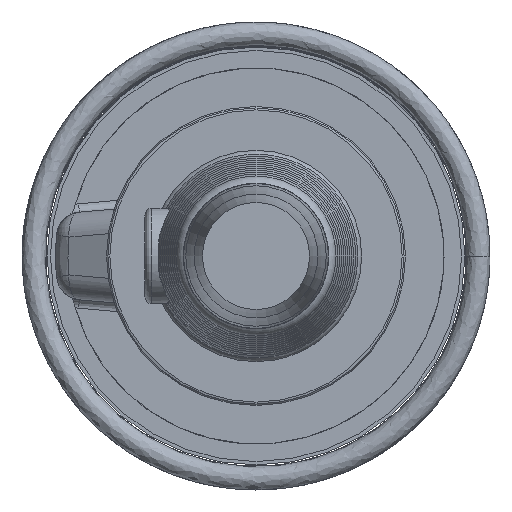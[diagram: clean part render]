
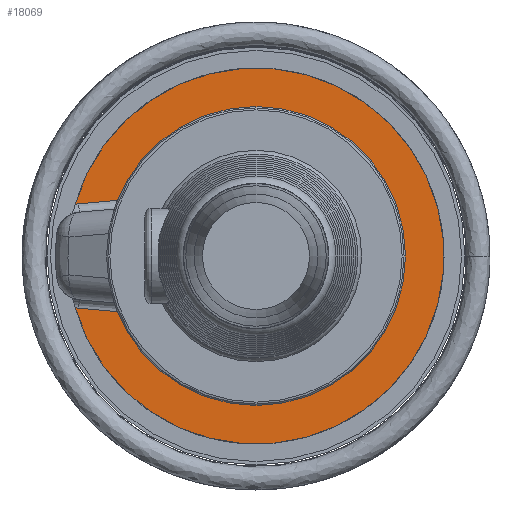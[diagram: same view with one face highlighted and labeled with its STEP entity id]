
A CAD part, left-side view. The second image highlights one B-rep face of the part: STEP entity #18069.
In plain terms, the highlighted planar face has unit normal (-1, 0, 0).
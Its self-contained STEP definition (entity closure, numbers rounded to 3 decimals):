
#2377=LINE('',#39893,#3386);
#2378=LINE('',#39901,#3387);
#3386=VECTOR('',#22701,10.);
#3387=VECTOR('',#22708,10.);
#3767=PLANE('',#19279);
#4619=FACE_OUTER_BOUND('',#5680,.T.);
#5680=EDGE_LOOP('',(#15427,#15428,#15429,#15430,#15431,#15432));
#6298=CIRCLE('',#19280,20.);
#6299=CIRCLE('',#19281,112.5);
#6300=CIRCLE('',#19282,20.);
#6301=CIRCLE('',#19283,74.);
#8136=VERTEX_POINT('',#39891);
#8137=VERTEX_POINT('',#39892);
#8138=VERTEX_POINT('',#39894);
#8139=VERTEX_POINT('',#39896);
#8140=VERTEX_POINT('',#39898);
#8141=VERTEX_POINT('',#39900);
#10592=EDGE_CURVE('',#8136,#8137,#2377,.T.);
#10593=EDGE_CURVE('',#8138,#8136,#6298,.T.);
#10594=EDGE_CURVE('',#8139,#8138,#6299,.F.);
#10595=EDGE_CURVE('',#8140,#8139,#6300,.T.);
#10596=EDGE_CURVE('',#8141,#8140,#2378,.T.);
#10597=EDGE_CURVE('',#8141,#8137,#6301,.T.);
#15427=ORIENTED_EDGE('',*,*,#10592,.F.);
#15428=ORIENTED_EDGE('',*,*,#10593,.F.);
#15429=ORIENTED_EDGE('',*,*,#10594,.F.);
#15430=ORIENTED_EDGE('',*,*,#10595,.F.);
#15431=ORIENTED_EDGE('',*,*,#10596,.F.);
#15432=ORIENTED_EDGE('',*,*,#10597,.T.);
#18069=ADVANCED_FACE('',(#4619),#3767,.T.);
#19279=AXIS2_PLACEMENT_3D('',#39890,#22699,#22700);
#19280=AXIS2_PLACEMENT_3D('',#39895,#22702,#22703);
#19281=AXIS2_PLACEMENT_3D('',#39897,#22704,#22705);
#19282=AXIS2_PLACEMENT_3D('',#39899,#22706,#22707);
#19283=AXIS2_PLACEMENT_3D('',#39902,#22709,#22710);
#22699=DIRECTION('center_axis',(-1.,0.,0.));
#22700=DIRECTION('ref_axis',(0.,0.,
1.));
#22701=DIRECTION('',(0.,-0.996,-0.087));
#22702=DIRECTION('center_axis',(-1.,0.,0.));
#22703=DIRECTION('ref_axis',(0.,0.219,-0.976));
#22704=DIRECTION('center_axis',(-1.,0.,0.));
#22705=DIRECTION('ref_axis',(0.,-1.,0.));
#22706=DIRECTION('center_axis',(-1.,0.,0.));
#22707=DIRECTION('ref_axis',(0.,0.219,0.976));
#22708=DIRECTION('',(0.,0.996,-0.087));
#22709=DIRECTION('center_axis',(1.,0.,0.));
#22710=DIRECTION('ref_axis',(0.,-1.,0.));
#39890=CARTESIAN_POINT('Origin',(-20.,-92.25,0.));
#39891=CARTESIAN_POINT('',(-20.,106.132,-31.232));
#39892=CARTESIAN_POINT('',(-20.,65.304,-34.804));
#39893=CARTESIAN_POINT('',(-20.,0.632,-40.462));
#39894=CARTESIAN_POINT('',(-20.,108.159,-30.95));
#39895=CARTESIAN_POINT('Origin',(-20.,104.389,-11.308));
#39896=CARTESIAN_POINT('',(-20.,108.159,30.95));
#39897=CARTESIAN_POINT('Origin',(-20.,0.,
0.));
#39898=CARTESIAN_POINT('',(-20.,106.132,31.232));
#39899=CARTESIAN_POINT('Origin',(-20.,104.389,11.308));
#39900=CARTESIAN_POINT('',(-20.,65.304,34.804));
#39901=CARTESIAN_POINT('',(-20.,0.632,40.462));
#39902=CARTESIAN_POINT('Origin',(-20.,0.,
0.));
